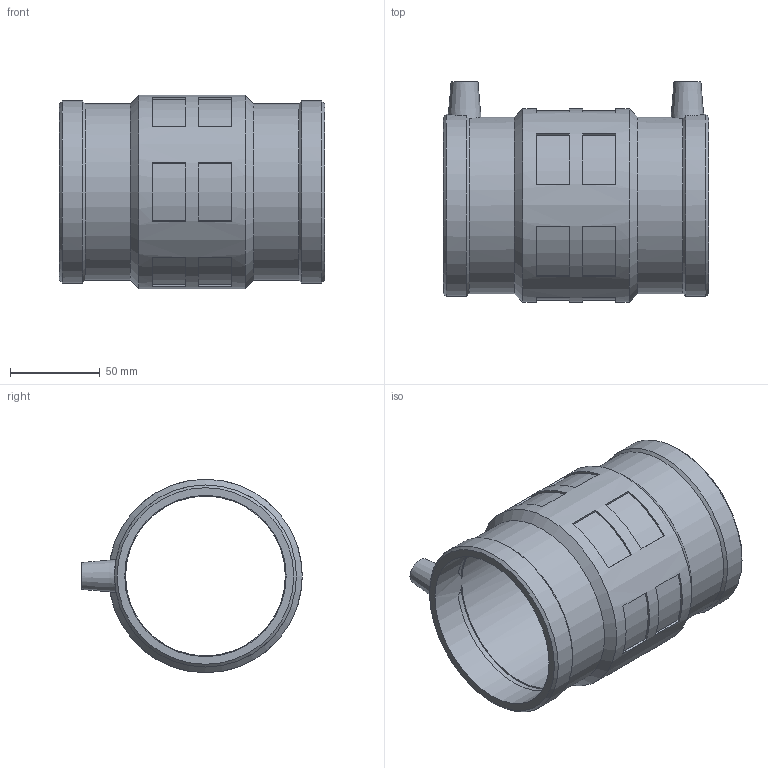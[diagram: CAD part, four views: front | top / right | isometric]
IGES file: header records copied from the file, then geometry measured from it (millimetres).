
Global section: file name: 460104090.ipt; native system: Autodesk Inventor 2015; preprocessor: unknown; author: KIM; date: 20171106.093413; units: millimetre
Bounding box: 148 x 123 x 108 mm (x, y, z)
Volume: 295020.4 mm3; surface area: 99277.8 mm2
Topology: 1 solids, 1 shells, 98 faces, 240 edges, 160 vertices
Faces by surface type: plane 60, cylinder 19, cone 12, revolution 7
Full cylindrical faces by diameter (mm): 4 x2, 98.474 x2, 101.52 x2, 108 x1
